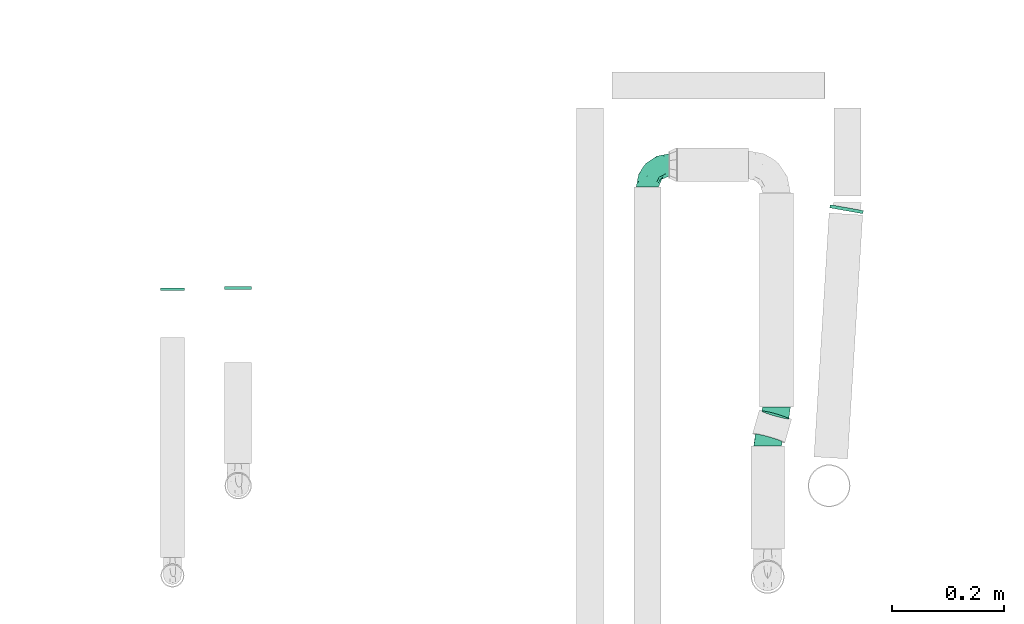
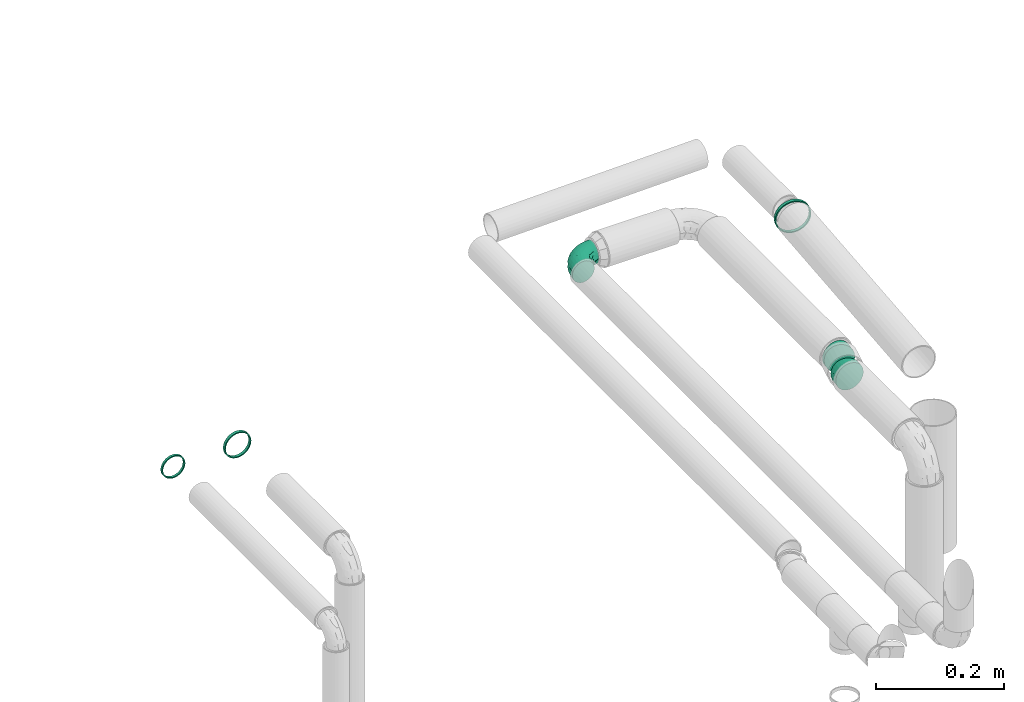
# One storey, part 105 of 156: 3 flow fittings, 3 flow segments.
"""IFC2X3 building model written with IfcOpenShell, lengths in millimetres."""

from ifc_helpers import new_model, entity, si_unit, converted_unit, derived_unit, direction, frame, origin_with_axes, origin_2d_with_axis, place, context, subcontext, project, spatial, hollow_circle, extrude, open_shell, surface_model, source, transform, mapped, type_object, element, save


model = new_model("IFC2X3")

# Units and contexts
model_context = context("Model", 3, precision=0.01, world=frame((0.0, 4.29681676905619e-09, 0.0)), true_north=direction((4.01073788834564e-13, 1.0)))
plan_context = context("Plan", 3, precision=0.01, world=frame((0.0, 4.29681676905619e-09, 0.0)), true_north=direction((4.01073788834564e-13, 1.0)))
body_context = subcontext(model_context, "Body", "Model", "MODEL_VIEW")
ifc_project = project(units=[converted_unit("PLANEANGLEUNIT", "DEGREE", entity("IfcPositiveLengthMeasure", 0.0174532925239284), si_unit("PLANEANGLEUNIT", "RADIAN"), dimensions=[0, 0, 0, 0, 0, 0, 0]), si_unit("AREAUNIT", "SQUARE_METRE"), si_unit("LENGTHUNIT", "METRE", prefix="MILLI"), si_unit("MASSUNIT", "GRAM", prefix="KILO"), si_unit("POWERUNIT", "WATT"), si_unit("PRESSUREUNIT", "PASCAL", prefix="KILO"), si_unit("FORCEUNIT", "NEWTON", prefix="KILO"), si_unit("ELECTRICVOLTAGEUNIT", "VOLT"), si_unit("ELECTRICCURRENTUNIT", "AMPERE"), si_unit("THERMODYNAMICTEMPERATUREUNIT", "DEGREE_CELSIUS"), si_unit("TIMEUNIT", "SECOND"), si_unit("VOLUMEUNIT", "CUBIC_METRE"), derived_unit("LINEARVELOCITYUNIT", [(si_unit("LENGTHUNIT", "METRE"), 1), (si_unit("TIMEUNIT", "SECOND"), -1)]), derived_unit("VOLUMETRICFLOWRATEUNIT", [(si_unit("VOLUMEUNIT", "CUBIC_METRE"), 1), (si_unit("TIMEUNIT", "SECOND"), -1)]), derived_unit("THERMALTRANSMITTANCEUNIT", [(si_unit("POWERUNIT", "WATT"), 1), (si_unit("THERMODYNAMICTEMPERATUREUNIT", "KELVIN"), -1), (si_unit("AREAUNIT", "SQUARE_METRE"), -1)]), derived_unit("SOUNDPRESSUREUNIT", [(si_unit("PRESSUREUNIT", "PASCAL"), 1)])], contexts=[model_context, plan_context])

# Site, building, storey
site_placement = place(None, frame((0.0, -4.29681676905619e-09, 0.0), z_axis=(0.0, 0.0, 1.0), x_axis=(1.0, 0.0, 0.0)))
site = spatial("IfcSite", under=ifc_project, at=site_placement, CompositionType="ELEMENT")
building_placement = place(site_placement, frame((0.0, 4.29681676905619e-09, 0.0), z_axis=(0.0, 0.0, 1.0), x_axis=(1.0, 0.0, 0.0)))
building = spatial("IfcBuilding", under=site, at=building_placement, Name="mc-building", CompositionType="ELEMENT")
storey_placement = place(building_placement, frame((0.0, 0.0, 205200.0), z_axis=(0.0, 0.0, 1.0), x_axis=(1.0, 0.0, 0.0)))
storey = spatial("IfcBuildingStorey", under=building, at=storey_placement, Name="Nivå D + 1,2 m", CompositionType="ELEMENT", Elevation=205200.0)

# Flow fittings
pipe_fitting_type = type_object("IfcPipeFittingType", Name="magi_pipe_elbow_short_001", PredefinedType="BEND")
shared_shape_1 = source(origin_with_axes(), body_context, "Body", "SurfaceModel", [
    surface_model("IfcShellBasedSurfaceModel", [(-40.0, 0.0, -20.0), (-40.0, -14.14214, -14.14214), (-40.0, 5.17638, -19.31852), (-40.0, 10.0, -17.32051), (-40.0, 14.14214, -14.14214), (-40.0, 19.31852, -5.17638), (-40.0, 17.32051, -10.0), (-40.0, -20.0, 0.0), (-40.0, 17.32051, 10.0), (-40.0, -10.0, -17.32051), (-40.0, -5.17638, -19.31852), (-40.0, -19.31852, -5.17638), (-40.0, -17.32051, -10.0), (-40.0, 20.0, 0.0), (-40.0, 19.31852, 5.17638), (-40.0, 5.17638, 19.31852), (-40.0, 10.0, 17.32051), (-40.0, 14.14214, 14.14214), (-40.0, -14.14214, 14.14214), (-40.0, -19.31852, 5.17638), (-40.0, -17.32051, 10.0), (-40.0, -10.0, 17.32051), (-40.0, -5.17638, 19.31852), (-40.0, 0.0, 20.0), (-5.17638, 40.0, -19.31852), (14.14214, 40.0, -14.14214), (0.0, 40.0, -20.0), (-14.14214, 40.0, -14.14214), (-10.0, 40.0, -17.32051), (-17.32051, 40.0, -10.0), (-19.31852, 40.0, -5.17638), (14.14214, 40.0, 14.14214), (20.0, 40.0, 0.0), (5.17638, 40.0, -19.31852), (10.0, 40.0, -17.32051), (17.32051, 40.0, -10.0), (19.31852, 40.0, -5.17638), (-20.0, 40.0, 0.0), (-19.31852, 40.0, 5.17638), (-17.32051, 40.0, 10.0), (-10.0, 40.0, 17.32051), (-5.17638, 40.0, 19.31852), (-14.14214, 40.0, 14.14214), (17.32051, 40.0, 10.0), (19.31852, 40.0, 5.17638), (5.17638, 40.0, 19.31852), (10.0, 40.0, 17.32051), (0.0, 40.0, 20.0), (-29.34188, -15.53782, 11.22746), (-26.26375, -11.53868, 14.90313), (-28.5195, -17.71639, 0.0), (-17.67969, -12.73676, 10.09432), (-26.581, -17.45622, 6.2376), (17.45622, 26.581, 6.2376), (14.11254, 15.66731, 5.12705), (15.43277, 17.03899, 0.0), (9.12884, 16.19937, 13.67918), (11.53868, 26.26374, 14.90313), (4.85407, 15.45219, 16.6156), (-29.39654, -7.56287, 17.99385), (-30.5536, -2.64945, 19.65795), (-28.00649, 3.06573, 19.96591), (-31.36589, 16.64512, 13.11423), (-28.65389, 20.90373, 9.14387), (-35.012, 18.78056, 8.28737), (-7.30629, -8.92959, 0.0), (-15.66731, -14.11254, 5.12706), (-17.03899, -15.43277, 0.0), (-21.08206, 22.33578, 14.16691), (-7.46564, 34.49868, 18.73357), (-2.74108, 29.91718, 19.95088), (-34.60263, 12.11166, 16.29648), (-1.72118, -3.38092, 9.01154), (-0.33521, 0.41269, 11.94686), (-6.79863, -4.78945, 12.32213), (-5.22056, 13.39548, 19.63795), (-9.93759, 3.66904, 18.67597), (-2.04318, 10.80545, 18.37976), (-20.59063, 29.29402, 9.05298), (-30.99684, 23.72923, 0.0), (-33.3079, 20.46931, 5.03972), (-30.83014, 7.84391, 18.89286), (-6.95093, 19.66798, 19.96412), (-14.81429, 14.81429, 19.51404), (-11.90902, 8.73983, 19.89698), (-3.57257, 3.57257, 16.3517), (-15.45219, -4.85407, 16.6156), (-19.91187, -0.17948, 19.38507), (12.73676, 17.67969, 10.09432), (15.53782, 29.34188, 11.22746), (7.56287, 29.39654, 17.99385), (2.64945, 30.5536, 19.65795), (-16.19937, -9.12884, 13.67918), (17.71639, 28.5195, 0.0), (-8.64963, 27.10049, 19.0472), (-12.63856, 30.97531, 16.57751), (-15.12775, 21.6204, 17.82326), (-16.43269, 26.57078, 15.30466), (-21.36029, 17.94675, 16.62052), (-27.3569, 23.76542, 4.76906), (-25.85786, 25.85786, 0.0), (-21.96234, 30.15713, 4.65165), (-16.51055, 31.89032, 13.05667), (-21.9775, 8.56694, 19.64209), (-19.62526, 4.90086, 19.99146), (-21.26232, 13.57052, 18.49883), (-11.65033, 20.761, 19.15903), (0.17948, 19.91187, 19.38507), (-27.54091, 13.57635, 16.84206), (4.55434, 6.94667, 12.66832), (-9.49254, -8.92796, 9.38786), (1.18751, -2.59773, 5.41318), (6.0734, 3.56218, 6.98463), (6.20309, 2.0761, 2.99722), (10.30126, 8.34257, 4.72404), (-23.72923, 30.99684, 0.0), (10.04165, 10.37513, 8.39403), (-5.39039, -7.95342, 5.80688), (2.42641, -2.42641, 0.0), (8.92959, 7.30629, 0.0), (-31.66153, 2.52887, -19.93491), (-17.30171, 29.27577, -13.34599), (-33.67189, -15.92112, -11.62006), (-30.77478, 7.85272, -18.89521), (-27.29854, 23.72276, -5.04381), (-16.33902, -5.04741, -16.77956), (-17.36687, -0.24948, -19.02234), (-8.03574, -0.33468, -16.38792), (-29.03652, 13.11356, -16.72682), (-31.62186, 16.57796, -13.08611), (11.94876, 28.93478, -15.1003), (6.90221, 25.32803, -17.78753), (7.88461, 33.77796, -18.20228), (-24.1205, 18.32787, -15.08398), (14.83158, 25.12948, -10.8327), (14.84608, 18.55034, -6.5666), (11.54106, 15.25773, -10.25258), (-18.52291, 23.24513, -15.40032), (-14.24293, 24.4556, -17.36881), (-18.4841, 18.4841, -17.5607), (-30.25505, -18.06161, 0.0), (-29.17694, -17.90454, -6.52017), (15.92112, 33.67189, -11.62006), (17.90454, 29.17694, -6.52017), (-8.70346, -9.83449, -6.69305), (-18.55035, -14.84608, -6.5666), (-28.93478, -11.94876, -15.1003), (0.19553, 0.48879, -11.49974), (-6.75335, -6.30847, -10.52412), (-6.08129, -2.80708, -13.65166), (-25.12948, -14.83158, -10.8327), (0.84196, 9.39483, -16.67908), (0.24948, 17.36687, -19.02234), (4.13362, 17.07423, -17.47196), (-29.4664, -2.52175, -19.63432), (-33.77796, -7.88461, -18.20228), (-21.82705, -9.13211, -15.70364), (2.52175, 29.4664, -19.63432), (-33.89754, 20.64393, -3.42388), (2.01203, -1.52334, -6.02964), (-19.61026, 31.73902, -8.71711), (-20.93556, 32.45716, -4.4545), (-15.25774, -11.54106, -10.25258), (-7.06048, 7.06048, -18.88537), (-24.30425, 23.77923, -9.81047), (-2.52887, 31.66153, -19.93491), (-8.16417, 29.098, -18.96542), (-12.55313, 31.39831, -16.5449), (-25.32803, -6.90221, -17.78753), (3.46973, 6.97784, -13.67949), (8.1585, 14.93305, -13.99093), (6.60421, 7.04526, -10.40775), (-4.72795, 22.03311, -19.99568), (9.83449, 8.70346, -6.69305), (-10.81456, 11.67039, -19.98865), (-11.83412, 18.95999, -19.40472), (-19.74646, 11.57433, -19.33963), (-31.97533, 19.65868, -8.43762), (18.06161, 30.25505, 0.0), (-22.03311, 4.72795, -19.99568), (-22.92893, 32.92893, 0.0), (-14.93305, -8.1585, -13.99093), (-22.3042, 22.6511, -12.97687)], [open_shell([[[0, 1, 2]], [[3, 2, 4]], [[5, 6, 4]], [[4, 2, 1]], [[4, 7, 8]], [[9, 1, 10]], [[1, 0, 10]], [[11, 7, 12]], [[1, 12, 7]], [[1, 7, 4]], [[13, 5, 4]], [[8, 14, 13]], [[7, 15, 8]], [[8, 15, 16]], [[17, 8, 16]], [[18, 15, 7]], [[19, 20, 7]], [[7, 20, 18]], [[21, 22, 18]], [[22, 15, 18]], [[15, 22, 23]], [[8, 13, 4]], [[24, 25, 26]], [[27, 24, 28]], [[27, 29, 30]], [[25, 24, 27]], [[31, 32, 27]], [[33, 25, 34]], [[33, 26, 25]], [[35, 32, 36]], [[32, 35, 25]], [[27, 32, 25]], [[27, 30, 31]], [[37, 38, 39]], [[30, 39, 31]], [[40, 41, 39]], [[40, 39, 42]], [[31, 39, 41]], [[32, 43, 44]], [[31, 43, 32]], [[31, 45, 46]], [[31, 41, 45]], [[47, 45, 41]], [[30, 37, 39]], [[18, 48, 49]], [[19, 7, 50]], [[51, 48, 52]], [[53, 54, 55]], [[48, 18, 20]], [[19, 52, 20]], [[56, 57, 58]], [[49, 21, 18]], [[49, 59, 21]], [[23, 60, 61]], [[62, 63, 64]], [[65, 66, 67]], [[57, 31, 46]], [[62, 68, 63]], [[41, 69, 70]], [[16, 71, 17]], [[22, 60, 23]], [[72, 73, 74]], [[75, 76, 77]], [[17, 62, 8]], [[39, 38, 78]], [[79, 13, 80]], [[64, 14, 8]], [[23, 61, 15]], [[15, 81, 16]], [[82, 83, 84]], [[74, 85, 86]], [[59, 86, 87]], [[88, 89, 57]], [[90, 46, 45]], [[43, 53, 44]], [[45, 47, 91]], [[54, 53, 88]], [[43, 89, 53]], [[92, 86, 49]], [[89, 43, 31]], [[21, 59, 22]], [[53, 55, 93]], [[93, 44, 53]], [[66, 52, 67]], [[94, 82, 70]], [[95, 96, 94]], [[97, 98, 96]], [[79, 99, 100]], [[40, 42, 95]], [[101, 100, 99]], [[68, 78, 63]], [[41, 40, 69]], [[13, 14, 80]], [[95, 94, 69]], [[78, 101, 99]], [[42, 102, 95]], [[70, 47, 41]], [[97, 95, 102]], [[19, 50, 52]], [[90, 57, 46]], [[57, 90, 58]], [[81, 15, 61]], [[103, 104, 84]], [[105, 81, 103]], [[42, 39, 102]], [[106, 96, 83]], [[94, 106, 82]], [[91, 70, 107]], [[71, 62, 17]], [[62, 108, 98]], [[86, 59, 49]], [[67, 52, 50]], [[60, 59, 87]], [[92, 49, 51]], [[86, 85, 76]], [[91, 90, 45]], [[32, 44, 93]], [[107, 77, 58]], [[107, 58, 90]], [[58, 85, 109]], [[110, 74, 92]], [[72, 74, 110]], [[66, 51, 52]], [[72, 111, 112]], [[113, 114, 112]], [[56, 88, 57]], [[52, 48, 20]], [[49, 48, 51]], [[57, 89, 31]], [[53, 89, 88]], [[103, 81, 61]], [[71, 81, 108]], [[14, 64, 80]], [[63, 78, 99]], [[37, 115, 101]], [[101, 115, 100]], [[39, 78, 102]], [[68, 102, 78]], [[97, 96, 95]], [[105, 98, 108]], [[103, 84, 83]], [[107, 70, 82]], [[76, 84, 87]], [[82, 84, 75]], [[70, 91, 47]], [[90, 91, 107]], [[59, 60, 22]], [[61, 60, 87]], [[73, 85, 74]], [[109, 112, 116]], [[103, 61, 104]], [[105, 103, 83]], [[96, 105, 83]], [[81, 105, 108]], [[96, 98, 105]], [[62, 98, 68]], [[61, 87, 104]], [[87, 84, 104]], [[86, 76, 87]], [[77, 76, 85]], [[58, 77, 85]], [[75, 77, 107]], [[82, 75, 107]], [[76, 75, 84]], [[81, 71, 16]], [[62, 71, 108]], [[95, 69, 40]], [[70, 69, 94]], [[62, 64, 8]], [[80, 63, 99]], [[63, 80, 64]], [[80, 99, 79]], [[66, 65, 117]], [[110, 66, 117]], [[112, 114, 116]], [[118, 117, 65]], [[110, 92, 51]], [[112, 111, 113]], [[119, 55, 54]], [[74, 86, 92]], [[58, 109, 56]], [[116, 56, 109]], [[66, 110, 51]], [[72, 110, 117]], [[111, 72, 117]], [[73, 112, 109]], [[117, 118, 111]], [[113, 111, 118]], [[118, 119, 113]], [[114, 119, 54]], [[119, 114, 113]], [[116, 54, 88]], [[54, 116, 114]], [[116, 88, 56]], [[112, 73, 72]], [[85, 73, 109]], [[78, 38, 101]], [[37, 101, 38]], [[102, 68, 97]], [[97, 68, 98]], [[82, 106, 83]], [[94, 96, 106]], [[2, 120, 0]], [[29, 27, 121]], [[1, 122, 12]], [[3, 123, 2]], [[100, 124, 79]], [[125, 126, 127]], [[128, 4, 129]], [[130, 131, 132]], [[128, 129, 133]], [[134, 135, 136]], [[137, 138, 139]], [[128, 3, 4]], [[67, 140, 141]], [[134, 142, 143]], [[141, 11, 12]], [[144, 65, 145]], [[146, 1, 9]], [[147, 148, 149]], [[145, 141, 150]], [[151, 152, 153]], [[154, 10, 0]], [[9, 155, 146]], [[150, 146, 156]], [[155, 9, 10]], [[143, 135, 134]], [[33, 157, 26]], [[13, 79, 158]], [[148, 159, 144]], [[160, 161, 30]], [[145, 162, 144]], [[163, 152, 151]], [[30, 29, 160]], [[121, 164, 160]], [[34, 25, 130]], [[26, 165, 24]], [[24, 165, 166]], [[142, 25, 35]], [[27, 28, 167]], [[124, 161, 164]], [[157, 33, 132]], [[155, 154, 168]], [[123, 3, 128]], [[169, 170, 171]], [[172, 157, 152]], [[24, 166, 28]], [[132, 33, 34]], [[142, 130, 25]], [[168, 154, 126]], [[136, 135, 173]], [[133, 137, 139]], [[4, 6, 129]], [[170, 131, 130]], [[35, 36, 143]], [[172, 174, 175]], [[176, 123, 128]], [[158, 177, 5]], [[135, 55, 119]], [[167, 28, 166]], [[175, 166, 172]], [[137, 167, 138]], [[122, 141, 12]], [[140, 7, 11]], [[36, 32, 178]], [[170, 130, 134]], [[152, 157, 131]], [[165, 157, 172]], [[153, 170, 151]], [[152, 163, 174]], [[168, 125, 156]], [[122, 146, 150]], [[120, 154, 0]], [[179, 174, 126]], [[179, 126, 154]], [[126, 163, 127]], [[162, 145, 150]], [[140, 11, 141]], [[36, 178, 143]], [[55, 143, 178]], [[177, 129, 6]], [[128, 133, 139]], [[176, 128, 139]], [[120, 123, 179]], [[121, 160, 29]], [[161, 100, 180]], [[166, 175, 138]], [[121, 27, 167]], [[161, 37, 30]], [[79, 124, 158]], [[124, 164, 177]], [[161, 124, 100]], [[136, 171, 170]], [[127, 163, 151]], [[147, 171, 159]], [[148, 144, 162]], [[127, 151, 169]], [[127, 181, 125]], [[129, 177, 164]], [[6, 5, 177]], [[159, 65, 144]], [[67, 141, 145]], [[143, 55, 135]], [[135, 119, 173]], [[123, 120, 2]], [[154, 120, 179]], [[157, 165, 26]], [[166, 165, 172]], [[172, 152, 174]], [[176, 139, 175]], [[126, 174, 163]], [[176, 174, 179]], [[174, 176, 175]], [[123, 176, 179]], [[150, 181, 162]], [[127, 149, 181]], [[181, 148, 162]], [[159, 148, 147]], [[171, 136, 173]], [[170, 134, 136]], [[159, 171, 173]], [[171, 147, 169]], [[169, 147, 149]], [[151, 170, 169]], [[164, 182, 129]], [[182, 121, 137]], [[181, 149, 148]], [[169, 149, 127]], [[182, 137, 133]], [[167, 137, 121]], [[166, 138, 167]], [[175, 139, 138]], [[129, 182, 133]], [[121, 182, 164]], [[161, 160, 164]], [[37, 161, 180]], [[177, 158, 124]], [[13, 158, 5]], [[130, 132, 34]], [[157, 132, 131]], [[143, 142, 35]], [[130, 142, 134]], [[154, 155, 10]], [[146, 155, 168]], [[146, 122, 1]], [[141, 122, 150]], [[152, 131, 153]], [[159, 119, 118]], [[67, 145, 65]], [[170, 153, 131]], [[119, 159, 173]], [[159, 118, 65]], [[156, 125, 181]], [[126, 125, 168]], [[150, 156, 181]], [[168, 156, 146]]])]),
])
flow_fitting_placement = place(storey_placement, frame((343633.85487, 461539.79788, 4249.39240000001), z_axis=(0.0, 0.0, 1.0), x_axis=(-1.0, 0.0, 0.0)))
element("IfcFlowFitting", 1, at=flow_fitting_placement, inside=storey, type_object=pipe_fitting_type, Name="magi_pipe_elbow_short_001", context=body_context, shape_type="MappedRepresentation", body=[
    mapped(shared_shape_1, transform((0.0, 0.0, 0.0), scale=1.0)),
])
shared_shape_2 = source(origin_with_axes(), body_context, "Body", "SurfaceModel", [
    surface_model("IfcShellBasedSurfaceModel", [(-7.30524, 6.47048, -24.14815), (-7.30524, 0.0, -25.0), (-7.30524, 24.14815, -6.47048), (-7.30524, 12.5, -21.65064), (-7.30524, 21.65064, -12.5), (-7.30524, 17.67767, -17.67767), (-7.30524, -17.67767, -17.67767), (-7.30524, -12.5, -21.65064), (-7.30524, -6.47048, -24.14815), (-7.30524, -21.65064, -12.5), (-7.30524, -24.14815, -6.47048), (-7.30524, -12.5, 21.65064), (-7.30524, -25.0, 0.0), (-7.30524, -24.14815, 6.47048), (-7.30524, 24.14815, 6.47048), (-7.30524, 25.0, 0.0), (-7.30524, 6.47048, 24.14815), (-7.30524, 21.65064, 12.5), (-7.30524, 17.67767, 17.67767), (-7.30524, 12.5, 21.65064), (-7.30524, -21.65064, 12.5), (-7.30524, -17.67767, 17.67767), (-7.30524, -6.47048, 24.14815), (-7.30524, 0.0, 25.0), (0.09103, 25.22878, -6.47048), (6.99987, 2.09004, -25.0), (5.14866, 8.29005, -24.14815), (1.94225, 19.02877, -17.67767), (3.4236, 14.06753, -21.65064), (0.80558, 22.83566, -12.5), (12.05749, -14.84868, -17.67767), (13.90871, -21.04869, 6.47048), (8.85109, -4.10996, -24.14815), (10.57615, -9.88744, -21.65064), (13.90871, -21.04869, -6.47048), (13.19417, -18.65557, -12.5), (14.15243, -21.86493, 0.0), (0.09103, 25.22878, 6.47048), (1.94225, 19.02877, 17.67767), (0.80558, 22.83566, 12.5), (3.4236, 14.06753, 21.65064), (5.14866, 8.29005, 24.14815), (8.85109, -4.10996, 24.14815), (12.05749, -14.84868, 17.67767), (13.19417, -18.65557, 12.5), (10.57615, -9.88744, 21.65064), (6.99987, 2.09004, 25.0), (-0.15268, 26.04502, 0.0), (-3.69099, 25.26263, 0.0), (3.5375, -24.21209, 0.0)], [open_shell([[[0, 1, 2]], [[3, 0, 2]], [[2, 4, 5]], [[3, 2, 5]], [[6, 2, 1]], [[7, 6, 8]], [[6, 1, 8]], [[9, 10, 6]], [[11, 6, 10]], [[10, 12, 13]], [[2, 6, 11]], [[14, 15, 16]], [[17, 14, 18]], [[14, 16, 19]], [[18, 14, 19]], [[11, 16, 15]], [[20, 21, 13]], [[11, 13, 21]], [[10, 13, 11]], [[11, 22, 16]], [[22, 23, 16]], [[15, 2, 11]], [[24, 25, 26]], [[27, 26, 28]], [[27, 29, 24]], [[27, 24, 26]], [[30, 25, 31]], [[32, 30, 33]], [[32, 25, 30]], [[30, 34, 35]], [[30, 31, 34]], [[34, 31, 36]], [[24, 31, 25]], [[31, 24, 37]], [[38, 37, 39]], [[38, 40, 41]], [[31, 37, 38]], [[42, 38, 41]], [[31, 43, 44]], [[43, 31, 45]], [[31, 42, 45]], [[31, 38, 42]], [[41, 46, 42]], [[37, 24, 47]], [[21, 20, 43]], [[45, 11, 21]], [[42, 22, 11]], [[46, 23, 22]], [[16, 23, 41]], [[13, 44, 20]], [[17, 18, 39]], [[19, 38, 18]], [[48, 14, 37]], [[48, 15, 14]], [[37, 14, 17]], [[40, 19, 16]], [[13, 12, 49]], [[45, 42, 11]], [[21, 43, 45]], [[42, 46, 22]], [[44, 13, 31]], [[20, 44, 43]], [[49, 36, 31]], [[39, 37, 17]], [[47, 48, 37]], [[40, 16, 41]], [[19, 40, 38]], [[39, 18, 38]], [[41, 23, 46]], [[13, 49, 31]], [[1, 32, 8]], [[0, 25, 1]], [[4, 29, 5]], [[5, 28, 3]], [[24, 4, 2]], [[26, 0, 3]], [[49, 12, 10]], [[34, 49, 10]], [[30, 6, 7]], [[10, 9, 34]], [[6, 35, 9]], [[33, 7, 8]], [[2, 15, 48]], [[48, 47, 24]], [[24, 29, 4]], [[27, 5, 29]], [[26, 3, 28]], [[28, 5, 27]], [[26, 25, 0]], [[33, 8, 32]], [[30, 7, 33]], [[9, 35, 34]], [[34, 36, 49]], [[35, 6, 30]], [[25, 32, 1]], [[2, 48, 24]]])]),
])
for number, where, z_axis, x_axis, name in (
    (2, (343864.59753, 461099.92782, 4249.39240000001), (0.304467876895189, 1.06503784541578e-08, 0.952522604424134), (0.272519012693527, 0.958199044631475, -0.0871090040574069), "magi_pipe_elbow_short_001"),
    (3, (343848.85487, 461044.57528, 4254.42444999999), (0.304467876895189, 1.06503784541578e-08, 0.952522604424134), (-0.272519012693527, -0.958199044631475, 0.0871090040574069), "magi_pipe_elbow_short_001"),
):
    element("IfcFlowFitting", number, at=place(storey_placement, frame(where, z_axis=z_axis, x_axis=x_axis)), inside=storey, type_object=pipe_fitting_type, Name=name, context=body_context, shape_type="MappedRepresentation", body=[
        mapped(shared_shape_2, transform((0.0, 0.0, 0.0), scale=1.0)),
    ])

# Flow segments
pipe_segment_type = type_object("IfcPipeSegmentType", Name="Stålrør normaltykke", PredefinedType="RIGIDSEGMENT")
shared_shape_3 = source(origin_with_axes(), body_context, "Body", "SweptSolid", [
    extrude(hollow_circle(Radius=21.2, WallThickness=2.0, at=origin_2d_with_axis()), frame((0.0, 0.0, 0.0), z_axis=(1.0, 0.0, 0.0), x_axis=(0.0, 1.0, 0.0)), (0.0, 0.0, 1.0), 4.3),
])
flow_segment_1_placement = place(storey_placement, frame((342785.41942, 461315.53138, 4284.42444999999), z_axis=(0.0, 0.0, 1.0), x_axis=(0.0, 1.0, 0.0)))
element("IfcFlowSegment", 4, at=flow_segment_1_placement, inside=storey, type_object=pipe_segment_type, Name="Stålrør normaltykke", context=body_context, shape_type="MappedRepresentation", body=[
    mapped(shared_shape_3, transform((0.0, 0.0, 0.0), scale=1.0)),
])
shared_shape_4 = source(origin_with_axes(), body_context, "Body", "SweptSolid", [
    extrude(hollow_circle(Radius=30.1, WallThickness=2.0, at=origin_2d_with_axis()), frame((0.0, 0.0, 0.0), z_axis=(1.0, 0.0, 0.0), x_axis=(0.0, 1.0, 0.0)), (0.0, 0.0, 1.0), 5.7),
])
flow_segment_2_placement = place(storey_placement, frame((343990.34604, 461463.23834, 4255.43497999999), z_axis=(0.0, 0.0, 1.0), x_axis=(-0.175790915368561, -0.984427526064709, 0.0)))
element("IfcFlowSegment", 5, at=flow_segment_2_placement, inside=storey, type_object=pipe_segment_type, Name="Stålrør normaltykke", context=body_context, shape_type="MappedRepresentation", body=[
    mapped(shared_shape_4, transform((0.0, 0.0, 0.0), scale=1.0)),
])
shared_shape_5 = source(origin_with_axes(), body_context, "Body", "SweptSolid", [
    extrude(hollow_circle(Radius=24.1, WallThickness=2.0, at=origin_2d_with_axis()), frame((0.0, 0.0, 0.0), z_axis=(1.0, 0.0, 0.0), x_axis=(0.0, 1.0, 0.0)), (0.0, 0.0, 1.0), 5.3),
])
flow_segment_3_placement = place(storey_placement, frame((342902.82938, 461317.03138, 4284.42444999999), z_axis=(0.0, 0.0, 1.0), x_axis=(0.0, 1.0, 0.0)))
element("IfcFlowSegment", 6, at=flow_segment_3_placement, inside=storey, type_object=pipe_segment_type, Name="Stålrør normaltykke", context=body_context, shape_type="MappedRepresentation", body=[
    mapped(shared_shape_5, transform((0.0, 0.0, 0.0), scale=1.0)),
])

save(model, "model.ifc")
